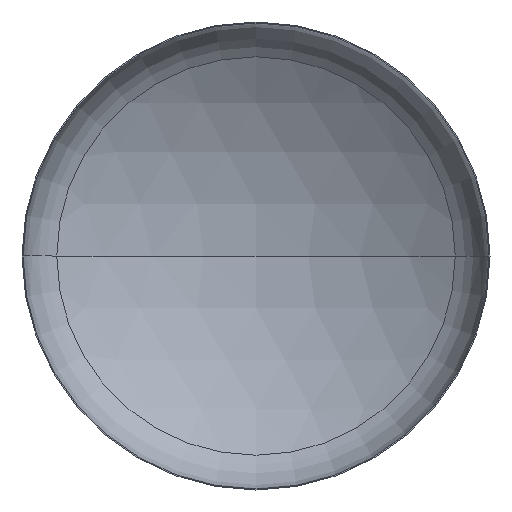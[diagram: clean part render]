
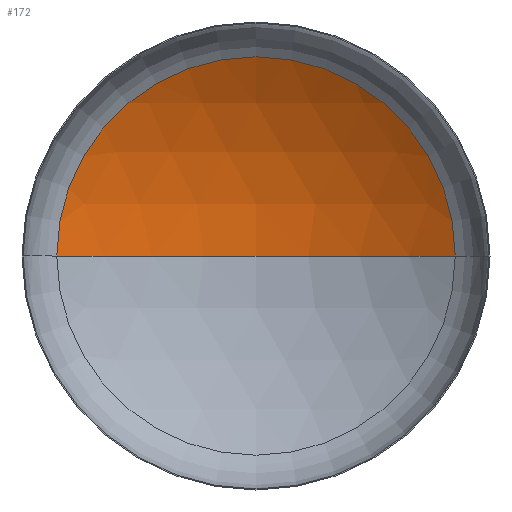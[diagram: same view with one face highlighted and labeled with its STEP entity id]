
A CAD part, front view. The second image highlights one B-rep face of the part: STEP entity #172.
In plain terms, the highlighted spherical face has radius 5600 mm.
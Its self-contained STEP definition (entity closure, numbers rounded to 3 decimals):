
#31 = VERTEX_POINT ( 'NONE', #296 ) ;
#52 = AXIS2_PLACEMENT_3D ( 'NONE', #373, #354, #182 ) ;
#57 = ORIENTED_EDGE ( 'NONE', *, *, #152, .T. ) ;
#59 = VERTEX_POINT ( 'NONE', #69 ) ;
#64 = ORIENTED_EDGE ( 'NONE', *, *, #153, .T. ) ;
#69 = CARTESIAN_POINT ( 'NONE',  ( -2979.646, 959.43, 0. ) ) ;
#86 = VERTEX_POINT ( 'NONE', #249 ) ;
#87 = CARTESIAN_POINT ( 'NONE',  ( 0., -3782.058, 0. ) ) ;
#89 = AXIS2_PLACEMENT_3D ( 'NONE', #87, #102, #343 ) ;
#93 = EDGE_LOOP ( 'NONE', ( #117, #64, #57 ) ) ;
#96 = AXIS2_PLACEMENT_3D ( 'NONE', #276, #195, #196 ) ;
#101 = AXIS2_PLACEMENT_3D ( 'NONE', #247, #259, #246 ) ;
#102 = DIRECTION ( 'NONE',  ( 0., 0., 1. ) ) ;
#117 = ORIENTED_EDGE ( 'NONE', *, *, #154, .F. ) ;
#152 = EDGE_CURVE ( 'NONE', #31, #59, #239, .T. ) ;
#153 = EDGE_CURVE ( 'NONE', #86, #31, #169, .T. ) ;
#154 = EDGE_CURVE ( 'NONE', #86, #59, #353, .T. ) ;
#169 = CIRCLE ( 'NONE', #96, 5600. ) ;
#172 = ADVANCED_FACE ( 'NONE', ( #223 ), #340, .F. ) ;
#182 = DIRECTION ( 'NONE',  ( -1., 0., 0. ) ) ;
#195 = DIRECTION ( 'NONE',  ( 0., 0., -1. ) ) ;
#196 = DIRECTION ( 'NONE',  ( -1., 0., 0. ) ) ;
#223 = FACE_OUTER_BOUND ( 'NONE', #93, .T. ) ;
#239 = CIRCLE ( 'NONE', #101, 2979.646 ) ;
#246 = DIRECTION ( 'NONE',  ( 1., 0., 0. ) ) ;
#247 = CARTESIAN_POINT ( 'NONE',  ( 0., 959.43, 0. ) ) ;
#249 = CARTESIAN_POINT ( 'NONE',  ( 0., 1817.942, 0. ) ) ;
#259 = DIRECTION ( 'NONE',  ( 0., -1., 0. ) ) ;
#276 = CARTESIAN_POINT ( 'NONE',  ( 0., -3782.058, 0. ) ) ;
#296 = CARTESIAN_POINT ( 'NONE',  ( 2979.646, 959.43, 0. ) ) ;
#340 = SPHERICAL_SURFACE ( 'NONE', #52, 5600. ) ;
#343 = DIRECTION ( 'NONE',  ( 1., 0., 0. ) ) ;
#353 = CIRCLE ( 'NONE', #89, 5600. ) ;
#354 = DIRECTION ( 'NONE',  ( 0., 0., -1. ) ) ;
#373 = CARTESIAN_POINT ( 'NONE',  ( 0., -3782.058, 0. ) ) ;
